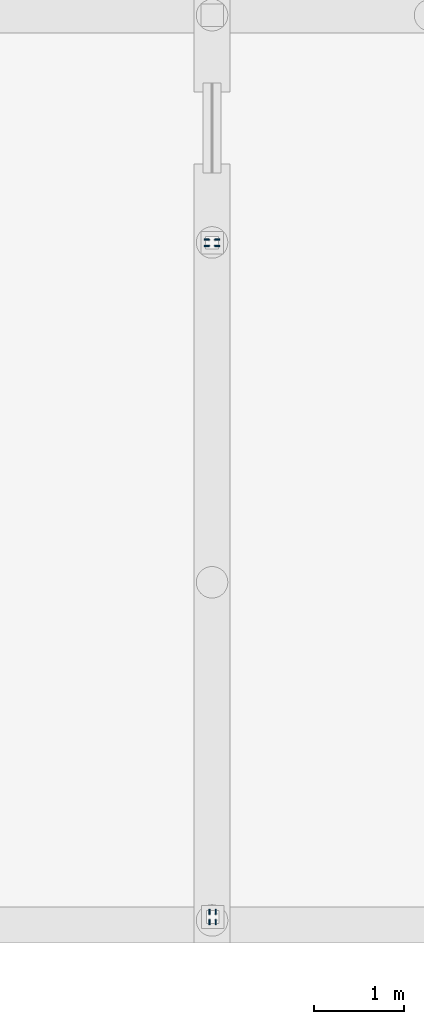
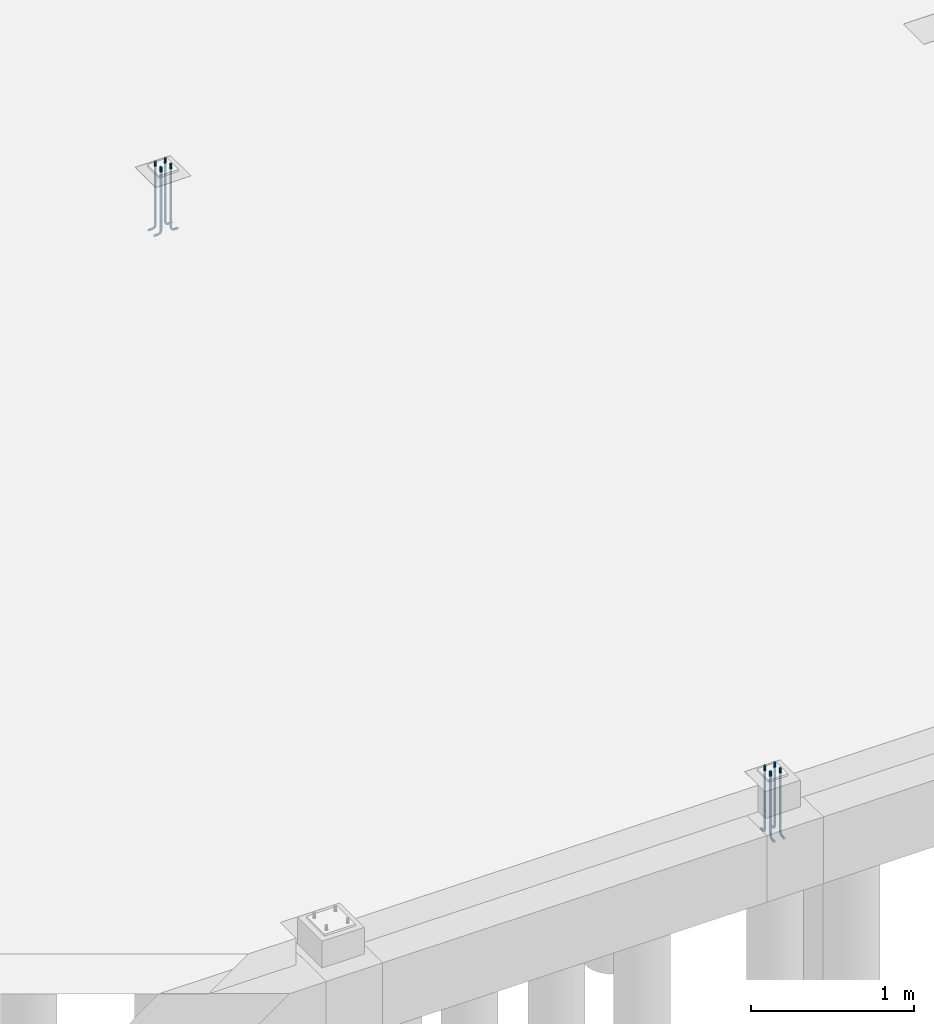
# One storey, part 17 of 22: 8 beams.
"""IFC2X3 building model written with IfcOpenShell, lengths in millimetres."""

from ifc_helpers import new_model, si_unit, frame, origin_with_axes, place, context, subcontext, project, spatial, faceted_brep, material, type_object, element, save


model = new_model("IFC2X3")

# Units and contexts
model_context = context("Model", 3, precision=1e-05, world=origin_with_axes())
body_context = subcontext(model_context, "Body", "Model", "MODEL_VIEW")
ifc_project = project(units=[si_unit("LENGTHUNIT", "METRE", prefix="MILLI"), si_unit("AREAUNIT", "SQUARE_METRE"), si_unit("VOLUMEUNIT", "CUBIC_METRE"), si_unit("MASSUNIT", "GRAM", prefix="KILO"), si_unit("TIMEUNIT", "SECOND"), si_unit("PLANEANGLEUNIT", "RADIAN"), si_unit("SOLIDANGLEUNIT", "STERADIAN"), si_unit("THERMODYNAMICTEMPERATUREUNIT", "DEGREE_CELSIUS"), si_unit("LUMINOUSINTENSITYUNIT", "LUMEN")], contexts=[model_context])

# Site, building, storey
site_placement = place(None, origin_with_axes())
site = spatial("IfcSite", under=ifc_project, at=site_placement, Name="Undefined", CompositionType="ELEMENT")
building_placement = place(site_placement, origin_with_axes())
building = spatial("IfcBuilding", under=site, at=building_placement, Name="Undefined", CompositionType="ELEMENT")
storey_placement = place(building_placement, origin_with_axes())
storey = spatial("IfcBuildingStorey", under=building, at=storey_placement, Name="Undefined", CompositionType="ELEMENT", Elevation=0.0)

# Beams
ifc_material = material(Name="STEEL/S235JR")
beam_type = type_object("IfcBeamType", Name="ANKER_M16", PredefinedType="NOTDEFINED")
beam_1_placement = place(storey_placement, frame((18596.9948343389, 7714.76587991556, 0.0), z_axis=(0.0, 1.0, 0.0), x_axis=(0.0, 0.0, -1.0)))
element("IfcBeam", 1, at=beam_1_placement, inside=storey, type_object=beam_type, material=ifc_material, Name="ANKER", context=body_context, shape_type="Brep", body=[
    faceted_brep([(0.0, -8.00000000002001, 7.27595761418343e-12), (0.0, -5.65685424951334, -5.65685424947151), (477.0, -5.65685424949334, -5.65685424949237), (477.0, -8.0, 0.0), (0.0, -9.09494701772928e-12, -7.99999999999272), (477.0, 0.0, -8.0), (0.0, 5.65685424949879, -5.65685424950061), (477.0, 5.65685424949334, -5.65685424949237), (0.0, 8.00000000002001, -3.63797880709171e-11), (477.0, 8.0, 0.0), (0.0, 5.65685424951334, 5.65685424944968), (477.0, 5.65685424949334, 5.65685424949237), (0.0, 5.45696821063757e-12, 7.99999999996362), (477.0, 0.0, 8.0), (0.0, -5.65685424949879, 5.65685424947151), (477.0, -5.65685424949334, 5.65685424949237), (488.863186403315, -5.64026550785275, 0.0), (487.966503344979, -3.47548110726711, 5.65685424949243), (485.801718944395, 1.75077075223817, 8.0), (483.636934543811, 6.97702261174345, 5.65685424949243), (482.740251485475, 9.14180701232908, 0.0), (483.636934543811, 6.97702261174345, -5.65685424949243), (485.801718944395, 1.75077075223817, -8.0), (487.966503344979, -3.47548110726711, -5.65685424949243), (497.263455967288, 2.73654403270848, -5.65685424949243), (498.920310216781, 1.07968978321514, 0.0), (493.263455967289, 6.73654403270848, -8.0), (489.263455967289, 10.7365440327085, -5.65685424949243), (487.606601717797, 12.3933982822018, 0.0), (489.263455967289, 10.7365440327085, 5.65685424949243), (493.263455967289, 6.73654403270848, 8.0), (497.263455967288, 2.73654403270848, 5.65685424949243), (503.475481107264, 12.0334966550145, -5.65685424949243), (505.640265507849, 11.1368135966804, 0.0), (498.249229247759, 14.1982810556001, -8.0), (493.022977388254, 16.3630654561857, -5.65685424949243), (490.858192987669, 17.2597485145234, 0.0), (493.022977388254, 16.3630654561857, 5.65685424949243), (498.249229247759, 14.1982810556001, 8.0), (503.475481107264, 12.0334966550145, 5.65685424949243), (505.656854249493, 23.0, -5.65685424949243), (508.0, 23.0, 0.0), (500.000000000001, 23.0, -8.0), (494.343145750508, 23.0, -5.65685424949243), (492.000000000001, 23.0, 0.0), (494.343145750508, 23.0, 5.65685424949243), (500.000000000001, 23.0, 8.0), (505.656854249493, 23.0, 5.65685424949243), (505.656854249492, 50.0, -5.65685424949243), (508.0, 50.0, 0.0), (500.0, 50.0, -8.0), (494.343145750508, 50.0, -5.65685424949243), (492.0, 50.0, 0.0), (494.343145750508, 50.0, 5.65685424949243), (500.0, 50.0, 8.0), (505.656854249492, 50.0, 5.65685424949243)], [[[0, 1, 2, 3]], [[1, 4, 5, 2]], [[4, 6, 7, 5]], [[6, 8, 9, 7]], [[8, 10, 11, 9]], [[10, 12, 13, 11]], [[12, 14, 15, 13]], [[14, 0, 3, 15]], [[14, 12, 10, 8, 6, 4, 1, 0]], [[15, 3, 16, 17]], [[13, 15, 17, 18]], [[11, 13, 18, 19]], [[9, 11, 19, 20]], [[7, 9, 20, 21]], [[5, 7, 21, 22]], [[2, 5, 22, 23]], [[3, 2, 23, 16]], [[23, 24, 25, 16]], [[22, 26, 24, 23]], [[21, 27, 26, 22]], [[20, 28, 27, 21]], [[19, 29, 28, 20]], [[18, 30, 29, 19]], [[17, 31, 30, 18]], [[16, 25, 31, 17]], [[24, 32, 33, 25]], [[26, 34, 32, 24]], [[27, 35, 34, 26]], [[28, 36, 35, 27]], [[29, 37, 36, 28]], [[30, 38, 37, 29]], [[31, 39, 38, 30]], [[25, 33, 39, 31]], [[32, 40, 41, 33]], [[34, 42, 40, 32]], [[35, 43, 42, 34]], [[36, 44, 43, 35]], [[37, 45, 44, 36]], [[38, 46, 45, 37]], [[39, 47, 46, 38]], [[33, 41, 47, 39]], [[41, 40, 48, 49]], [[40, 42, 50, 48]], [[42, 43, 51, 50]], [[43, 44, 52, 51]], [[44, 45, 53, 52]], [[45, 46, 54, 53]], [[46, 47, 55, 54]], [[47, 41, 49, 55]], [[50, 51, 52, 53, 54, 55, 49, 48]]]),
])
beam_2_placement = place(storey_placement, frame((18666.9948343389, 7714.76587991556, 0.0), z_axis=(0.0, 1.0, 0.0), x_axis=(0.0, 0.0, -1.0)))
element("IfcBeam", 2, at=beam_2_placement, inside=storey, type_object=beam_type, material=ifc_material, Name="ANKER", context=body_context, shape_type="Brep", body=[
    faceted_brep([(0.0, -8.00000000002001, 7.27595761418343e-12), (0.0, -5.65685424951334, -5.65685424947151), (477.0, -5.65685424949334, -5.65685424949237), (477.0, -8.0, 0.0), (0.0, -9.09494701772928e-12, -7.99999999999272), (477.0, 0.0, -8.0), (0.0, 5.65685424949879, -5.65685424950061), (477.0, 5.65685424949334, -5.65685424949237), (0.0, 8.00000000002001, -3.63797880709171e-11), (477.0, 8.0, 0.0), (0.0, 5.65685424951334, 5.65685424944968), (477.0, 5.65685424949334, 5.65685424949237), (0.0, 5.45696821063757e-12, 7.99999999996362), (477.0, 0.0, 8.0), (0.0, -5.65685424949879, 5.65685424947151), (477.0, -5.65685424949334, 5.65685424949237), (488.863186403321, 5.64026550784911, 0.0), (487.966503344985, 3.47548110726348, -5.65685424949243), (485.801718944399, -1.75077075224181, -8.0), (483.636934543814, -6.97702261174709, -5.65685424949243), (482.740251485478, -9.14180701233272, 0.0), (483.636934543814, -6.97702261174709, 5.65685424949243), (485.801718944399, -1.75077075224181, 8.0), (487.966503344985, 3.47548110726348, 5.65685424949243), (497.263455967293, -2.73654403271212, 5.65685424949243), (498.920310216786, -1.07968978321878, 0.0), (493.263455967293, -6.73654403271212, 8.0), (489.263455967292, -10.7365440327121, 5.65685424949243), (487.606601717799, -12.3933982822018, 0.0), (489.263455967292, -10.7365440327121, -5.65685424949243), (493.263455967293, -6.73654403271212, -8.0), (497.263455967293, -2.73654403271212, -5.65685424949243), (503.475481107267, -12.0334966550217, 5.65685424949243), (505.640265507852, -11.1368135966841, 0.0), (498.249229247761, -14.1982810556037, 8.0), (493.022977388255, -16.3630654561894, 5.65685424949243), (490.85819298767, -17.259748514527, 0.0), (493.022977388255, -16.3630654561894, -5.65685424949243), (498.249229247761, -14.1982810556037, -8.0), (503.475481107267, -12.0334966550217, -5.65685424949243), (505.656854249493, -23.0, 5.65685424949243), (508.000000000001, -23.0, 0.0), (500.000000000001, -23.0, 8.0), (494.343145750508, -23.0, 5.65685424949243), (492.0, -23.0, 0.0), (494.343145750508, -23.0, -5.65685424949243), (500.000000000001, -23.0, -8.0), (505.656854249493, -23.0, -5.65685424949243), (494.343145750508, -50.0, -5.65685424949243), (492.0, -50.0, 0.0), (500.0, -50.0, -8.0), (505.656854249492, -50.0, -5.65685424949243), (508.0, -50.0, 0.0), (505.656854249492, -50.0, 5.65685424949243), (500.0, -50.0, 8.0), (494.343145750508, -50.0, 5.65685424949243)], [[[0, 1, 2, 3]], [[1, 4, 5, 2]], [[4, 6, 7, 5]], [[6, 8, 9, 7]], [[8, 10, 11, 9]], [[10, 12, 13, 11]], [[12, 14, 15, 13]], [[14, 0, 3, 15]], [[14, 12, 10, 8, 6, 4, 1, 0]], [[7, 9, 16, 17]], [[5, 7, 17, 18]], [[2, 5, 18, 19]], [[3, 2, 19, 20]], [[15, 3, 20, 21]], [[13, 15, 21, 22]], [[11, 13, 22, 23]], [[9, 11, 23, 16]], [[23, 24, 25, 16]], [[22, 26, 24, 23]], [[21, 27, 26, 22]], [[20, 28, 27, 21]], [[19, 29, 28, 20]], [[18, 30, 29, 19]], [[17, 31, 30, 18]], [[16, 25, 31, 17]], [[24, 32, 33, 25]], [[26, 34, 32, 24]], [[27, 35, 34, 26]], [[28, 36, 35, 27]], [[29, 37, 36, 28]], [[30, 38, 37, 29]], [[31, 39, 38, 30]], [[25, 33, 39, 31]], [[32, 40, 41, 33]], [[34, 42, 40, 32]], [[35, 43, 42, 34]], [[36, 44, 43, 35]], [[37, 45, 44, 36]], [[38, 46, 45, 37]], [[39, 47, 46, 38]], [[33, 41, 47, 39]], [[44, 45, 48, 49]], [[45, 46, 50, 48]], [[46, 47, 51, 50]], [[47, 41, 52, 51]], [[41, 40, 53, 52]], [[40, 42, 54, 53]], [[42, 43, 55, 54]], [[43, 44, 49, 55]], [[50, 51, 52, 53, 54, 55, 49, 48]]]),
])
beam_3_placement = place(storey_placement, frame((18596.9948343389, 7784.76587991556, 0.0), z_axis=(0.0, 1.0, 0.0), x_axis=(0.0, 0.0, -1.0)))
element("IfcBeam", 3, at=beam_3_placement, inside=storey, type_object=beam_type, material=ifc_material, Name="ANKER", context=body_context, shape_type="Brep", body=[
    faceted_brep([(0.0, -8.00000000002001, 7.27595761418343e-12), (0.0, -5.65685424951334, -5.65685424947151), (477.0, -5.65685424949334, -5.65685424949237), (477.0, -8.0, 0.0), (0.0, -9.09494701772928e-12, -7.99999999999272), (477.0, 0.0, -8.0), (0.0, 5.65685424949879, -5.65685424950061), (477.0, 5.65685424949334, -5.65685424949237), (0.0, 8.00000000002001, -3.63797880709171e-11), (477.0, 8.0, 0.0), (0.0, 5.65685424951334, 5.65685424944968), (477.0, 5.65685424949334, 5.65685424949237), (0.0, 5.45696821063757e-12, 7.99999999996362), (477.0, 0.0, 8.0), (0.0, -5.65685424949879, 5.65685424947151), (477.0, -5.65685424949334, 5.65685424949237), (488.863186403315, -5.64026550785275, 0.0), (487.966503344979, -3.47548110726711, 5.65685424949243), (485.801718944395, 1.75077075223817, 8.0), (483.636934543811, 6.97702261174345, 5.65685424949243), (482.740251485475, 9.14180701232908, 0.0), (483.636934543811, 6.97702261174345, -5.65685424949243), (485.801718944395, 1.75077075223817, -8.0), (487.966503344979, -3.47548110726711, -5.65685424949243), (497.263455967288, 2.73654403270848, -5.65685424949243), (498.920310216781, 1.07968978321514, 0.0), (493.263455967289, 6.73654403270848, -8.0), (489.263455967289, 10.7365440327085, -5.65685424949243), (487.606601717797, 12.3933982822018, 0.0), (489.263455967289, 10.7365440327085, 5.65685424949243), (493.263455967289, 6.73654403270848, 8.0), (497.263455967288, 2.73654403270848, 5.65685424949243), (503.475481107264, 12.0334966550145, -5.65685424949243), (505.640265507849, 11.1368135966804, 0.0), (498.249229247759, 14.1982810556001, -8.0), (493.022977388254, 16.3630654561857, -5.65685424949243), (490.858192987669, 17.2597485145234, 0.0), (493.022977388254, 16.3630654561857, 5.65685424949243), (498.249229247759, 14.1982810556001, 8.0), (503.475481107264, 12.0334966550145, 5.65685424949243), (505.656854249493, 23.0, -5.65685424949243), (508.0, 23.0, 0.0), (500.000000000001, 23.0, -8.0), (494.343145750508, 23.0, -5.65685424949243), (492.000000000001, 23.0, 0.0), (494.343145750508, 23.0, 5.65685424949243), (500.000000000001, 23.0, 8.0), (505.656854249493, 23.0, 5.65685424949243), (505.656854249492, 50.0, -5.65685424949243), (508.0, 50.0, 0.0), (500.0, 50.0, -8.0), (494.343145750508, 50.0, -5.65685424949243), (492.0, 50.0, 0.0), (494.343145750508, 50.0, 5.65685424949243), (500.0, 50.0, 8.0), (505.656854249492, 50.0, 5.65685424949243)], [[[0, 1, 2, 3]], [[1, 4, 5, 2]], [[4, 6, 7, 5]], [[6, 8, 9, 7]], [[8, 10, 11, 9]], [[10, 12, 13, 11]], [[12, 14, 15, 13]], [[14, 0, 3, 15]], [[14, 12, 10, 8, 6, 4, 1, 0]], [[15, 3, 16, 17]], [[13, 15, 17, 18]], [[11, 13, 18, 19]], [[9, 11, 19, 20]], [[7, 9, 20, 21]], [[5, 7, 21, 22]], [[2, 5, 22, 23]], [[3, 2, 23, 16]], [[23, 24, 25, 16]], [[22, 26, 24, 23]], [[21, 27, 26, 22]], [[20, 28, 27, 21]], [[19, 29, 28, 20]], [[18, 30, 29, 19]], [[17, 31, 30, 18]], [[16, 25, 31, 17]], [[24, 32, 33, 25]], [[26, 34, 32, 24]], [[27, 35, 34, 26]], [[28, 36, 35, 27]], [[29, 37, 36, 28]], [[30, 38, 37, 29]], [[31, 39, 38, 30]], [[25, 33, 39, 31]], [[32, 40, 41, 33]], [[34, 42, 40, 32]], [[35, 43, 42, 34]], [[36, 44, 43, 35]], [[37, 45, 44, 36]], [[38, 46, 45, 37]], [[39, 47, 46, 38]], [[33, 41, 47, 39]], [[41, 40, 48, 49]], [[40, 42, 50, 48]], [[42, 43, 51, 50]], [[43, 44, 52, 51]], [[44, 45, 53, 52]], [[45, 46, 54, 53]], [[46, 47, 55, 54]], [[47, 41, 49, 55]], [[50, 51, 52, 53, 54, 55, 49, 48]]]),
])
beam_4_placement = place(storey_placement, frame((18666.9948343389, 7784.76587991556, 0.0), z_axis=(0.0, -1.0, 0.0), x_axis=(0.0, 0.0, -1.0)))
element("IfcBeam", 4, at=beam_4_placement, inside=storey, type_object=beam_type, material=ifc_material, Name="ANKER", context=body_context, shape_type="Brep", body=[
    faceted_brep([(0.0, -8.00000000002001, 7.27595761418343e-12), (0.0, -5.65685424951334, -5.65685424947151), (477.0, -5.65685424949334, -5.65685424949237), (477.0, -8.0, 0.0), (0.0, -9.09494701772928e-12, -7.99999999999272), (477.0, 0.0, -8.0), (0.0, 5.65685424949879, -5.65685424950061), (477.0, 5.65685424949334, -5.65685424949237), (0.0, 8.00000000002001, -3.63797880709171e-11), (477.0, 8.0, 0.0), (0.0, 5.65685424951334, 5.65685424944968), (477.0, 5.65685424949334, 5.65685424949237), (0.0, 5.45696821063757e-12, 7.99999999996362), (477.0, 0.0, 8.0), (0.0, -5.65685424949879, 5.65685424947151), (477.0, -5.65685424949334, 5.65685424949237), (488.863186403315, -5.64026550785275, 0.0), (487.966503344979, -3.47548110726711, 5.65685424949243), (485.801718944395, 1.75077075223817, 8.0), (483.636934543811, 6.97702261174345, 5.65685424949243), (482.740251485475, 9.14180701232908, 0.0), (483.636934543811, 6.97702261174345, -5.65685424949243), (485.801718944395, 1.75077075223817, -8.0), (487.966503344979, -3.47548110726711, -5.65685424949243), (497.263455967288, 2.73654403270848, -5.65685424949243), (498.920310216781, 1.07968978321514, 0.0), (493.263455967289, 6.73654403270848, -8.0), (489.263455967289, 10.7365440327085, -5.65685424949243), (487.606601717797, 12.3933982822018, 0.0), (489.263455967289, 10.7365440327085, 5.65685424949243), (493.263455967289, 6.73654403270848, 8.0), (497.263455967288, 2.73654403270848, 5.65685424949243), (503.475481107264, 12.0334966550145, -5.65685424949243), (505.640265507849, 11.1368135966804, 0.0), (498.249229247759, 14.1982810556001, -8.0), (493.022977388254, 16.3630654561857, -5.65685424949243), (490.858192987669, 17.2597485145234, 0.0), (493.022977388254, 16.3630654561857, 5.65685424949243), (498.249229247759, 14.1982810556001, 8.0), (503.475481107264, 12.0334966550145, 5.65685424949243), (505.656854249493, 23.0, -5.65685424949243), (508.0, 23.0, 0.0), (500.000000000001, 23.0, -8.0), (494.343145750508, 23.0, -5.65685424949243), (492.000000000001, 23.0, 0.0), (494.343145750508, 23.0, 5.65685424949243), (500.000000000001, 23.0, 8.0), (505.656854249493, 23.0, 5.65685424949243), (505.656854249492, 50.0, -5.65685424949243), (508.0, 50.0, 0.0), (500.0, 50.0, -8.0), (494.343145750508, 50.0, -5.65685424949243), (492.0, 50.0, 0.0), (494.343145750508, 50.0, 5.65685424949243), (500.0, 50.0, 8.0), (505.656854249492, 50.0, 5.65685424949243)], [[[0, 1, 2, 3]], [[1, 4, 5, 2]], [[4, 6, 7, 5]], [[6, 8, 9, 7]], [[8, 10, 11, 9]], [[10, 12, 13, 11]], [[12, 14, 15, 13]], [[14, 0, 3, 15]], [[14, 12, 10, 8, 6, 4, 1, 0]], [[15, 3, 16, 17]], [[13, 15, 17, 18]], [[11, 13, 18, 19]], [[9, 11, 19, 20]], [[7, 9, 20, 21]], [[5, 7, 21, 22]], [[2, 5, 22, 23]], [[3, 2, 23, 16]], [[23, 24, 25, 16]], [[22, 26, 24, 23]], [[21, 27, 26, 22]], [[20, 28, 27, 21]], [[19, 29, 28, 20]], [[18, 30, 29, 19]], [[17, 31, 30, 18]], [[16, 25, 31, 17]], [[24, 32, 33, 25]], [[26, 34, 32, 24]], [[27, 35, 34, 26]], [[28, 36, 35, 27]], [[29, 37, 36, 28]], [[30, 38, 37, 29]], [[31, 39, 38, 30]], [[25, 33, 39, 31]], [[32, 40, 41, 33]], [[34, 42, 40, 32]], [[35, 43, 42, 34]], [[36, 44, 43, 35]], [[37, 45, 44, 36]], [[38, 46, 45, 37]], [[39, 47, 46, 38]], [[33, 41, 47, 39]], [[41, 40, 48, 49]], [[40, 42, 50, 48]], [[42, 43, 51, 50]], [[43, 44, 52, 51]], [[44, 45, 53, 52]], [[45, 46, 54, 53]], [[46, 47, 55, 54]], [[47, 41, 49, 55]], [[50, 51, 52, 53, 54, 55, 49, 48]]]),
])
beam_5_placement = place(storey_placement, frame((18603.6948343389, 239.621222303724, 0.0), z_axis=(0.0, 1.0, 0.0), x_axis=(0.0, 0.0, -1.0)))
element("IfcBeam", 5, at=beam_5_placement, inside=storey, type_object=beam_type, material=ifc_material, Name="ANKER", context=body_context, shape_type="Brep", body=[
    faceted_brep([(0.0, -8.00000000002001, 7.27595761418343e-12), (0.0, -5.65685424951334, -5.65685424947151), (477.0, -5.65685424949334, -5.65685424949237), (477.0, -8.0, 0.0), (0.0, -9.09494701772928e-12, -7.99999999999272), (477.0, 0.0, -8.0), (0.0, 5.65685424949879, -5.65685424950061), (477.0, 5.65685424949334, -5.65685424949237), (0.0, 8.00000000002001, -3.63797880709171e-11), (477.0, 8.0, 0.0), (0.0, 5.65685424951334, 5.65685424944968), (477.0, 5.65685424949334, 5.65685424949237), (0.0, 5.45696821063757e-12, 7.99999999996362), (477.0, 0.0, 8.0), (0.0, -5.65685424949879, 5.65685424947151), (477.0, -5.65685424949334, 5.65685424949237), (488.863186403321, 0.0, 5.64026550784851), (487.966503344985, 5.65685424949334, 3.47548110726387), (485.801718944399, 8.0, -1.75077075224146), (483.636934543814, 5.65685424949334, -6.9770226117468), (482.740251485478, 0.0, -9.14180701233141), (483.636934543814, -5.65685424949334, -6.9770226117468), (485.801718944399, -8.0, -1.75077075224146), (487.966503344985, -5.65685424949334, 3.47548110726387), (497.263455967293, -5.65685424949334, -2.73654403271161), (498.920310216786, 0.0, -1.07968978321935), (493.263455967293, -8.0, -6.73654403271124), (489.263455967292, -5.65685424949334, -10.7365440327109), (487.606601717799, 0.0, -12.3933982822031), (489.263455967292, 5.65685424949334, -10.7365440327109), (493.263455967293, 8.0, -6.73654403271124), (497.263455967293, 5.65685424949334, -2.73654403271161), (503.475481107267, -5.65685424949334, -12.0334966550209), (505.640265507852, 0.0, -11.1368135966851), (498.249229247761, -8.0, -14.1982810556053), (493.022977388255, -5.65685424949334, -16.3630654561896), (490.85819298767, 0.0, -17.2597485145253), (493.022977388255, 5.65685424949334, -16.3630654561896), (498.249229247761, 8.0, -14.1982810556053), (503.475481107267, 5.65685424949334, -12.0334966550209), (505.656854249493, -5.65685424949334, -22.9999999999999), (508.000000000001, 0.0, -22.9999999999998), (500.0, -8.0, -23.0), (494.343145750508, -5.65685424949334, -23.0000000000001), (492.000000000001, 0.0, -23.0000000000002), (494.343145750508, 5.65685424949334, -23.0000000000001), (500.000000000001, 8.0, -23.0), (505.656854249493, 5.65685424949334, -22.9999999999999), (494.343145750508, -5.65685424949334, -50.0), (500.0, -8.0, -50.0), (492.0, 0.0, -50.0), (494.343145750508, 5.65685424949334, -50.0), (500.0, 8.0, -50.0), (505.656854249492, 5.65685424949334, -50.0), (508.0, 0.0, -50.0), (505.656854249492, -5.65685424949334, -50.0)], [[[0, 1, 2, 3]], [[1, 4, 5, 2]], [[4, 6, 7, 5]], [[6, 8, 9, 7]], [[8, 10, 11, 9]], [[10, 12, 13, 11]], [[12, 14, 15, 13]], [[14, 0, 3, 15]], [[14, 12, 10, 8, 6, 4, 1, 0]], [[11, 13, 16, 17]], [[9, 11, 17, 18]], [[7, 9, 18, 19]], [[5, 7, 19, 20]], [[2, 5, 20, 21]], [[3, 2, 21, 22]], [[15, 3, 22, 23]], [[13, 15, 23, 16]], [[23, 24, 25, 16]], [[22, 26, 24, 23]], [[21, 27, 26, 22]], [[20, 28, 27, 21]], [[19, 29, 28, 20]], [[18, 30, 29, 19]], [[17, 31, 30, 18]], [[16, 25, 31, 17]], [[24, 32, 33, 25]], [[26, 34, 32, 24]], [[27, 35, 34, 26]], [[28, 36, 35, 27]], [[29, 37, 36, 28]], [[30, 38, 37, 29]], [[31, 39, 38, 30]], [[25, 33, 39, 31]], [[32, 40, 41, 33]], [[34, 42, 40, 32]], [[35, 43, 42, 34]], [[36, 44, 43, 35]], [[37, 45, 44, 36]], [[38, 46, 45, 37]], [[39, 47, 46, 38]], [[33, 41, 47, 39]], [[42, 43, 48, 49]], [[43, 44, 50, 48]], [[44, 45, 51, 50]], [[45, 46, 52, 51]], [[46, 47, 53, 52]], [[47, 41, 54, 53]], [[41, 40, 55, 54]], [[40, 42, 49, 55]], [[50, 51, 52, 53, 54, 55, 49, 48]]]),
])
beam_6_placement = place(storey_placement, frame((18673.6948343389, 239.621222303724, 0.0), z_axis=(0.0, 1.0, 0.0), x_axis=(0.0, 0.0, -1.0)))
element("IfcBeam", 6, at=beam_6_placement, inside=storey, type_object=beam_type, material=ifc_material, Name="ANKER", context=body_context, shape_type="Brep", body=[
    faceted_brep([(0.0, -8.00000000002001, 7.27595761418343e-12), (0.0, -5.65685424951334, -5.65685424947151), (477.0, -5.65685424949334, -5.65685424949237), (477.0, -8.0, 0.0), (0.0, -9.09494701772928e-12, -7.99999999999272), (477.0, 0.0, -8.0), (0.0, 5.65685424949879, -5.65685424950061), (477.0, 5.65685424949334, -5.65685424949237), (0.0, 8.00000000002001, -3.63797880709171e-11), (477.0, 8.0, 0.0), (0.0, 5.65685424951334, 5.65685424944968), (477.0, 5.65685424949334, 5.65685424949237), (0.0, 5.45696821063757e-12, 7.99999999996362), (477.0, 0.0, 8.0), (0.0, -5.65685424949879, 5.65685424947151), (477.0, -5.65685424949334, 5.65685424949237), (488.863186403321, 0.0, 5.64026550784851), (487.966503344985, 5.65685424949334, 3.47548110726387), (485.801718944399, 8.0, -1.75077075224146), (483.636934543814, 5.65685424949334, -6.9770226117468), (482.740251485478, 0.0, -9.14180701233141), (483.636934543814, -5.65685424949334, -6.9770226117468), (485.801718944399, -8.0, -1.75077075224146), (487.966503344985, -5.65685424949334, 3.47548110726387), (497.263455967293, -5.65685424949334, -2.73654403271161), (498.920310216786, 0.0, -1.07968978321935), (493.263455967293, -8.0, -6.73654403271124), (489.263455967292, -5.65685424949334, -10.7365440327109), (487.606601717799, 0.0, -12.3933982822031), (489.263455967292, 5.65685424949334, -10.7365440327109), (493.263455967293, 8.0, -6.73654403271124), (497.263455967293, 5.65685424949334, -2.73654403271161), (503.475481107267, -5.65685424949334, -12.0334966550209), (505.640265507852, 0.0, -11.1368135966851), (498.249229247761, -8.0, -14.1982810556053), (493.022977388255, -5.65685424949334, -16.3630654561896), (490.85819298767, 0.0, -17.2597485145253), (493.022977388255, 5.65685424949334, -16.3630654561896), (498.249229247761, 8.0, -14.1982810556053), (503.475481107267, 5.65685424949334, -12.0334966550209), (505.656854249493, -5.65685424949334, -22.9999999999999), (508.000000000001, 0.0, -22.9999999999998), (500.0, -8.0, -23.0), (494.343145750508, -5.65685424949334, -23.0000000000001), (492.000000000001, 0.0, -23.0000000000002), (494.343145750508, 5.65685424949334, -23.0000000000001), (500.000000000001, 8.0, -23.0), (505.656854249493, 5.65685424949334, -22.9999999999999), (494.343145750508, -5.65685424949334, -50.0), (500.0, -8.0, -50.0), (492.0, 0.0, -50.0), (494.343145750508, 5.65685424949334, -50.0), (500.0, 8.0, -50.0), (505.656854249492, 5.65685424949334, -50.0), (508.0, 0.0, -50.0), (505.656854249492, -5.65685424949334, -50.0)], [[[0, 1, 2, 3]], [[1, 4, 5, 2]], [[4, 6, 7, 5]], [[6, 8, 9, 7]], [[8, 10, 11, 9]], [[10, 12, 13, 11]], [[12, 14, 15, 13]], [[14, 0, 3, 15]], [[14, 12, 10, 8, 6, 4, 1, 0]], [[11, 13, 16, 17]], [[9, 11, 17, 18]], [[7, 9, 18, 19]], [[5, 7, 19, 20]], [[2, 5, 20, 21]], [[3, 2, 21, 22]], [[15, 3, 22, 23]], [[13, 15, 23, 16]], [[23, 24, 25, 16]], [[22, 26, 24, 23]], [[21, 27, 26, 22]], [[20, 28, 27, 21]], [[19, 29, 28, 20]], [[18, 30, 29, 19]], [[17, 31, 30, 18]], [[16, 25, 31, 17]], [[24, 32, 33, 25]], [[26, 34, 32, 24]], [[27, 35, 34, 26]], [[28, 36, 35, 27]], [[29, 37, 36, 28]], [[30, 38, 37, 29]], [[31, 39, 38, 30]], [[25, 33, 39, 31]], [[32, 40, 41, 33]], [[34, 42, 40, 32]], [[35, 43, 42, 34]], [[36, 44, 43, 35]], [[37, 45, 44, 36]], [[38, 46, 45, 37]], [[39, 47, 46, 38]], [[33, 41, 47, 39]], [[42, 43, 48, 49]], [[43, 44, 50, 48]], [[44, 45, 51, 50]], [[45, 46, 52, 51]], [[46, 47, 53, 52]], [[47, 41, 54, 53]], [[41, 40, 55, 54]], [[40, 42, 49, 55]], [[50, 51, 52, 53, 54, 55, 49, 48]]]),
])
beam_7_placement = place(storey_placement, frame((18603.6948343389, 309.621222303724, 0.0), z_axis=(0.0, 1.0, 0.0), x_axis=(0.0, 0.0, -1.0)))
element("IfcBeam", 7, at=beam_7_placement, inside=storey, type_object=beam_type, material=ifc_material, Name="ANKER", context=body_context, shape_type="Brep", body=[
    faceted_brep([(0.0, -8.00000000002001, 7.27595761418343e-12), (0.0, -5.65685424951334, -5.65685424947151), (477.0, -5.65685424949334, -5.65685424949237), (477.0, -8.0, 0.0), (0.0, -9.09494701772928e-12, -7.99999999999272), (477.0, 0.0, -8.0), (0.0, 5.65685424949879, -5.65685424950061), (477.0, 5.65685424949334, -5.65685424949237), (0.0, 8.00000000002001, -3.63797880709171e-11), (477.0, 8.0, 0.0), (0.0, 5.65685424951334, 5.65685424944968), (477.0, 5.65685424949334, 5.65685424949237), (0.0, 5.45696821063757e-12, 7.99999999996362), (477.0, 0.0, 8.0), (0.0, -5.65685424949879, 5.65685424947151), (477.0, -5.65685424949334, 5.65685424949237), (488.863186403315, 0.0, -5.64026550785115), (487.966503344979, -5.65685424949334, -3.47548110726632), (485.801718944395, -8.0, 1.75077075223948), (483.636934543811, -5.65685424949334, 6.97702261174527), (482.740251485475, 0.0, 9.14180701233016), (483.636934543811, 5.65685424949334, 6.97702261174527), (485.801718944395, 8.0, 1.75077075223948), (487.966503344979, 5.65685424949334, -3.47548110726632), (497.263455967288, 5.65685424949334, 2.73654403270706), (498.920310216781, 0.0, 1.07968978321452), (493.263455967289, 8.0, 6.73654403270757), (489.263455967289, 5.65685424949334, 10.7365440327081), (487.606601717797, 0.0, 12.3933982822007), (489.263455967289, -5.65685424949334, 10.7365440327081), (493.263455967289, -8.0, 6.73654403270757), (497.263455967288, -5.65685424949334, 2.73654403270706), (503.475481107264, 5.65685424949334, 12.033496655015), (505.640265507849, 0.0, 11.1368135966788), (498.249229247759, 8.0, 14.1982810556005), (493.022977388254, 5.65685424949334, 16.363065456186), (490.858192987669, 0.0, 17.2597485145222), (493.022977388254, -5.65685424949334, 16.363065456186), (498.249229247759, -8.0, 14.1982810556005), (503.475481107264, -5.65685424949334, 12.033496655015), (505.656854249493, 5.65685424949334, 22.9999999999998), (508.000000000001, 0.0, 22.9999999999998), (500.000000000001, 8.0, 23.0), (494.343145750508, 5.65685424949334, 23.0000000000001), (492.000000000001, 0.0, 23.0000000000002), (494.343145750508, -5.65685424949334, 23.0000000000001), (500.0, -8.0, 23.0), (505.656854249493, -5.65685424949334, 22.9999999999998), (505.656854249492, -5.65685424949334, 50.0), (500.0, -8.0, 50.0), (508.0, 0.0, 50.0), (505.656854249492, 5.65685424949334, 50.0), (500.0, 8.0, 50.0), (494.343145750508, 5.65685424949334, 50.0), (492.0, 0.0, 50.0), (494.343145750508, -5.65685424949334, 50.0)], [[[0, 1, 2, 3]], [[1, 4, 5, 2]], [[4, 6, 7, 5]], [[6, 8, 9, 7]], [[8, 10, 11, 9]], [[10, 12, 13, 11]], [[12, 14, 15, 13]], [[14, 0, 3, 15]], [[14, 12, 10, 8, 6, 4, 1, 0]], [[2, 5, 16, 17]], [[3, 2, 17, 18]], [[15, 3, 18, 19]], [[13, 15, 19, 20]], [[11, 13, 20, 21]], [[9, 11, 21, 22]], [[7, 9, 22, 23]], [[5, 7, 23, 16]], [[23, 24, 25, 16]], [[22, 26, 24, 23]], [[21, 27, 26, 22]], [[20, 28, 27, 21]], [[19, 29, 28, 20]], [[18, 30, 29, 19]], [[17, 31, 30, 18]], [[16, 25, 31, 17]], [[24, 32, 33, 25]], [[26, 34, 32, 24]], [[27, 35, 34, 26]], [[28, 36, 35, 27]], [[29, 37, 36, 28]], [[30, 38, 37, 29]], [[31, 39, 38, 30]], [[25, 33, 39, 31]], [[32, 40, 41, 33]], [[34, 42, 40, 32]], [[35, 43, 42, 34]], [[36, 44, 43, 35]], [[37, 45, 44, 36]], [[38, 46, 45, 37]], [[39, 47, 46, 38]], [[33, 41, 47, 39]], [[46, 47, 48, 49]], [[47, 41, 50, 48]], [[41, 40, 51, 50]], [[40, 42, 52, 51]], [[42, 43, 53, 52]], [[43, 44, 54, 53]], [[44, 45, 55, 54]], [[45, 46, 49, 55]], [[50, 51, 52, 53, 54, 55, 49, 48]]]),
])
beam_8_placement = place(storey_placement, frame((18673.6948343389, 309.621222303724, 0.0), z_axis=(0.0, -1.0, 0.0), x_axis=(0.0, 0.0, -1.0)))
element("IfcBeam", 8, at=beam_8_placement, inside=storey, type_object=beam_type, material=ifc_material, Name="ANKER", context=body_context, shape_type="Brep", body=[
    faceted_brep([(0.0, -8.00000000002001, 7.27595761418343e-12), (0.0, -5.65685424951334, -5.65685424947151), (477.0, -5.65685424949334, -5.65685424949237), (477.0, -8.0, 0.0), (0.0, -9.09494701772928e-12, -7.99999999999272), (477.0, 0.0, -8.0), (0.0, 5.65685424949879, -5.65685424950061), (477.0, 5.65685424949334, -5.65685424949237), (0.0, 8.00000000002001, -3.63797880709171e-11), (477.0, 8.0, 0.0), (0.0, 5.65685424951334, 5.65685424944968), (477.0, 5.65685424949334, 5.65685424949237), (0.0, 5.45696821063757e-12, 7.99999999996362), (477.0, 0.0, 8.0), (0.0, -5.65685424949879, 5.65685424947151), (477.0, -5.65685424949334, 5.65685424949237), (488.863186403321, 0.0, 5.64026550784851), (487.966503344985, 5.65685424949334, 3.47548110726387), (485.801718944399, 8.0, -1.75077075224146), (483.636934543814, 5.65685424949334, -6.9770226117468), (482.740251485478, 0.0, -9.14180701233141), (483.636934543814, -5.65685424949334, -6.9770226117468), (485.801718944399, -8.0, -1.75077075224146), (487.966503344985, -5.65685424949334, 3.47548110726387), (497.263455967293, -5.65685424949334, -2.73654403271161), (498.920310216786, 0.0, -1.07968978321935), (493.263455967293, -8.0, -6.73654403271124), (489.263455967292, -5.65685424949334, -10.7365440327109), (487.606601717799, 0.0, -12.3933982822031), (489.263455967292, 5.65685424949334, -10.7365440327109), (493.263455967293, 8.0, -6.73654403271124), (497.263455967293, 5.65685424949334, -2.73654403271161), (503.475481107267, -5.65685424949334, -12.0334966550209), (505.640265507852, 0.0, -11.1368135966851), (498.249229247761, -8.0, -14.1982810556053), (493.022977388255, -5.65685424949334, -16.3630654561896), (490.85819298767, 0.0, -17.2597485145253), (493.022977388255, 5.65685424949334, -16.3630654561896), (498.249229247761, 8.0, -14.1982810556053), (503.475481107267, 5.65685424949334, -12.0334966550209), (505.656854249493, -5.65685424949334, -22.9999999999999), (508.000000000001, 0.0, -22.9999999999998), (500.0, -8.0, -23.0), (494.343145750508, -5.65685424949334, -23.0000000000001), (492.000000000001, 0.0, -23.0000000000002), (494.343145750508, 5.65685424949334, -23.0000000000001), (500.000000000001, 8.0, -23.0), (505.656854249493, 5.65685424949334, -22.9999999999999), (494.343145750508, -5.65685424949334, -50.0), (500.0, -8.0, -50.0), (492.0, 0.0, -50.0), (494.343145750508, 5.65685424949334, -50.0), (500.0, 8.0, -50.0), (505.656854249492, 5.65685424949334, -50.0), (508.0, 0.0, -50.0), (505.656854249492, -5.65685424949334, -50.0)], [[[0, 1, 2, 3]], [[1, 4, 5, 2]], [[4, 6, 7, 5]], [[6, 8, 9, 7]], [[8, 10, 11, 9]], [[10, 12, 13, 11]], [[12, 14, 15, 13]], [[14, 0, 3, 15]], [[14, 12, 10, 8, 6, 4, 1, 0]], [[11, 13, 16, 17]], [[9, 11, 17, 18]], [[7, 9, 18, 19]], [[5, 7, 19, 20]], [[2, 5, 20, 21]], [[3, 2, 21, 22]], [[15, 3, 22, 23]], [[13, 15, 23, 16]], [[23, 24, 25, 16]], [[22, 26, 24, 23]], [[21, 27, 26, 22]], [[20, 28, 27, 21]], [[19, 29, 28, 20]], [[18, 30, 29, 19]], [[17, 31, 30, 18]], [[16, 25, 31, 17]], [[24, 32, 33, 25]], [[26, 34, 32, 24]], [[27, 35, 34, 26]], [[28, 36, 35, 27]], [[29, 37, 36, 28]], [[30, 38, 37, 29]], [[31, 39, 38, 30]], [[25, 33, 39, 31]], [[32, 40, 41, 33]], [[34, 42, 40, 32]], [[35, 43, 42, 34]], [[36, 44, 43, 35]], [[37, 45, 44, 36]], [[38, 46, 45, 37]], [[39, 47, 46, 38]], [[33, 41, 47, 39]], [[42, 43, 48, 49]], [[43, 44, 50, 48]], [[44, 45, 51, 50]], [[45, 46, 52, 51]], [[46, 47, 53, 52]], [[47, 41, 54, 53]], [[41, 40, 55, 54]], [[40, 42, 49, 55]], [[50, 51, 52, 53, 54, 55, 49, 48]]]),
])

save(model, "model.ifc")
